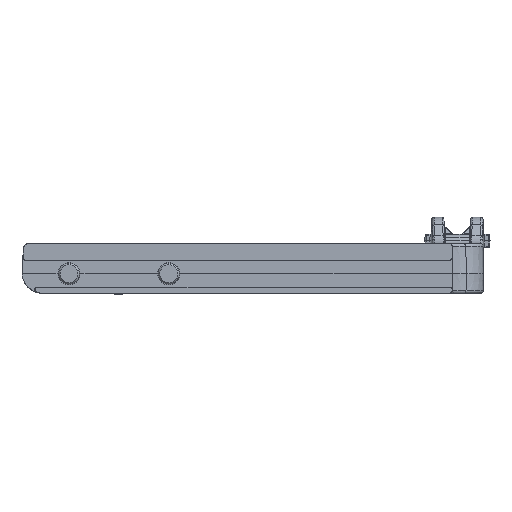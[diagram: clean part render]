
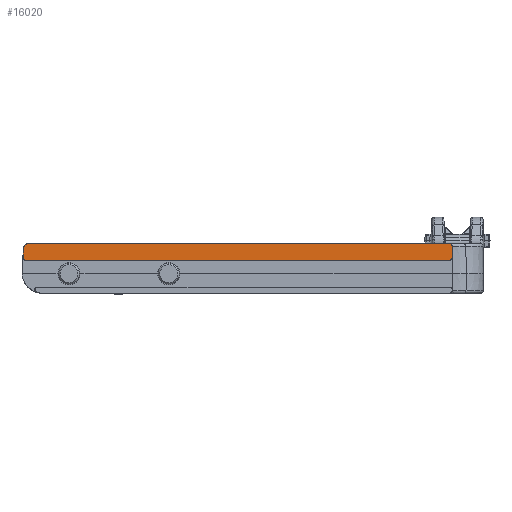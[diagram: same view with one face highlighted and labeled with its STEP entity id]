
A CAD part, front view. The second image highlights one B-rep face of the part: STEP entity #16020.
In plain terms, the highlighted planar face has unit normal (0, -1, 0).
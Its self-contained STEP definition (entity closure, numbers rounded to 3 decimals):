
#263 = VERTEX_POINT ( 'NONE', #16626 ) ;
#306 = VERTEX_POINT ( 'NONE', #16685 ) ;
#347 = VERTEX_POINT ( 'NONE', #16961 ) ;
#475 = VERTEX_POINT ( 'NONE', #17089 ) ;
#1666 = LINE ( 'NONE', #25374, #1674 ) ;
#1674 = VECTOR ( 'NONE', #5786, 1000. ) ;
#1681 = LINE ( 'NONE', #5804, #15753 ) ;
#4240 =( BOUNDED_CURVE ( )  B_SPLINE_CURVE ( 3, ( #25369, #25368, #5781, #5782 ),
 .UNSPECIFIED., .F., .F. ) 
 B_SPLINE_CURVE_WITH_KNOTS ( ( 4, 4 ),
 ( 5.498, 7.068 ),
 .UNSPECIFIED. ) 
 CURVE ( )  GEOMETRIC_REPRESENTATION_ITEM ( )  RATIONAL_B_SPLINE_CURVE ( ( 1., 0.805, 0.805, 1. ) ) 
 REPRESENTATION_ITEM ( '' )  );
#4241 =( BOUNDED_CURVE ( )  B_SPLINE_CURVE ( 3, ( #5784, #5793, #5794, #5795 ),
 .UNSPECIFIED., .F., .F. ) 
 B_SPLINE_CURVE_WITH_KNOTS ( ( 4, 4 ),
 ( 2.33, 3.953 ),
 .UNSPECIFIED. ) 
 CURVE ( )  GEOMETRIC_REPRESENTATION_ITEM ( )  RATIONAL_B_SPLINE_CURVE ( ( 1., 0.792, 0.792, 1. ) ) 
 REPRESENTATION_ITEM ( '' )  );
#5781 = CARTESIAN_POINT ( 'NONE',  ( 53.987, 0., -3.468 ) ) ;
#5782 = CARTESIAN_POINT ( 'NONE',  ( 53.987, 0., -3.175 ) ) ;
#5784 = CARTESIAN_POINT ( 'NONE',  ( -27.751, 0., -3.149 ) ) ;
#5786 = DIRECTION ( 'NONE',  ( 1., 0., 0. ) ) ;
#5793 = CARTESIAN_POINT ( 'NONE',  ( -27.767, 0., -3.454 ) ) ;
#5794 = CARTESIAN_POINT ( 'NONE',  ( -27.557, 0., -3.675 ) ) ;
#5795 = CARTESIAN_POINT ( 'NONE',  ( -27.252, 0., -3.675 ) ) ;
#5804 = CARTESIAN_POINT ( 'NONE',  ( -27.511, 0., 1.442 ) ) ;
#5805 = DIRECTION ( 'NONE',  ( 0.052, 0., 0.999 ) ) ;
#8977 = EDGE_CURVE ( 'NONE', #11378, #347, #11580, .T. ) ;
#8979 = EDGE_CURVE ( 'NONE', #306, #475, #26052, .T. ) ;
#8984 = EDGE_CURVE ( 'NONE', #11361, #306, #11583, .T. ) ;
#8985 = EDGE_CURVE ( 'NONE', #347, #475, #11588, .T. ) ;
#11360 = VERTEX_POINT ( 'NONE', #19576 ) ;
#11361 = VERTEX_POINT ( 'NONE', #19578 ) ;
#11366 = VERTEX_POINT ( 'NONE', #19587 ) ;
#11378 = VERTEX_POINT ( 'NONE', #19607 ) ;
#11580 = CIRCLE ( 'NONE', #16865, 0.962 ) ;
#11583 = LINE ( 'NONE', #12270, #11589 ) ;
#11588 = LINE ( 'NONE', #12272, #11591 ) ;
#11589 = VECTOR ( 'NONE', #12271, 1000. ) ;
#11591 = VECTOR ( 'NONE', #12273, 1000. ) ;
#12221 = CARTESIAN_POINT ( 'NONE',  ( 53.987, 0., -0.745 ) ) ;
#12241 = CARTESIAN_POINT ( 'NONE',  ( -26.701, 0., -1.5 ) ) ;
#12242 = DIRECTION ( 'NONE',  ( 0., 1., 0. ) ) ;
#12243 = DIRECTION ( 'NONE',  ( 0., 0., 1. ) ) ;
#12244 = CARTESIAN_POINT ( 'NONE',  ( 53.987, 0., -1.038 ) ) ;
#12247 = CARTESIAN_POINT ( 'NONE',  ( 53.78, 0., -0.538 ) ) ;
#12248 = CARTESIAN_POINT ( 'NONE',  ( 53.488, 0., -0.538 ) ) ;
#12270 = CARTESIAN_POINT ( 'NONE',  ( 53.987, 0., -1.5 ) ) ;
#12271 = DIRECTION ( 'NONE',  ( 0., 0., 1. ) ) ;
#12272 = CARTESIAN_POINT ( 'NONE',  ( 0., 0., -0.538 ) ) ;
#12273 = DIRECTION ( 'NONE',  ( 1., 0., 0. ) ) ;
#15483 = FACE_OUTER_BOUND ( 'NONE', #15762, .T. ) ;
#15753 = VECTOR ( 'NONE', #5805, 1000. ) ;
#15762 = EDGE_LOOP ( 'NONE', ( #23087, #23088, #23089, #23090, #23091, #23092, #23093, #23094 ) ) ;
#16020 = ADVANCED_FACE ( 'NONE', ( #15483 ), #18745, .F. ) ;
#16626 = CARTESIAN_POINT ( 'NONE',  ( -27.252, 0., -3.675 ) ) ;
#16685 = CARTESIAN_POINT ( 'NONE',  ( 53.987, 0., -1.038 ) ) ;
#16865 = AXIS2_PLACEMENT_3D ( 'NONE', #12241, #12242, #12243 ) ;
#16961 = CARTESIAN_POINT ( 'NONE',  ( -26.701, 0., -0.538 ) ) ;
#17089 = CARTESIAN_POINT ( 'NONE',  ( 53.488, 0., -0.538 ) ) ;
#18743 = CARTESIAN_POINT ( 'NONE',  ( -26.701, 0., -1.5 ) ) ;
#18745 = PLANE ( 'NONE',  #20590 ) ;
#18748 = DIRECTION ( 'NONE',  ( 0., 1., 0. ) ) ;
#18749 = DIRECTION ( 'NONE',  ( 0., 0., 1. ) ) ;
#19576 = CARTESIAN_POINT ( 'NONE',  ( 53.488, 0., -3.675 ) ) ;
#19578 = CARTESIAN_POINT ( 'NONE',  ( 53.987, 0., -3.175 ) ) ;
#19587 = CARTESIAN_POINT ( 'NONE',  ( -27.751, 0., -3.149 ) ) ;
#19607 = CARTESIAN_POINT ( 'NONE',  ( -27.662, 0., -1.45 ) ) ;
#20590 = AXIS2_PLACEMENT_3D ( 'NONE', #18743, #18748, #18749 ) ;
#23087 = ORIENTED_EDGE ( 'NONE', *, *, #8984, .T. ) ;
#23088 = ORIENTED_EDGE ( 'NONE', *, *, #8979, .T. ) ;
#23089 = ORIENTED_EDGE ( 'NONE', *, *, #8985, .F. ) ;
#23090 = ORIENTED_EDGE ( 'NONE', *, *, #8977, .F. ) ;
#23091 = ORIENTED_EDGE ( 'NONE', *, *, #25178, .F. ) ;
#23092 = ORIENTED_EDGE ( 'NONE', *, *, #25170, .T. ) ;
#23093 = ORIENTED_EDGE ( 'NONE', *, *, #25163, .T. ) ;
#23094 = ORIENTED_EDGE ( 'NONE', *, *, #25158, .T. ) ;
#25158 = EDGE_CURVE ( 'NONE', #11360, #11361, #4240, .T. ) ;
#25163 = EDGE_CURVE ( 'NONE', #263, #11360, #1666, .T. ) ;
#25170 = EDGE_CURVE ( 'NONE', #11366, #263, #4241, .T. ) ;
#25178 = EDGE_CURVE ( 'NONE', #11366, #11378, #1681, .T. ) ;
#25368 = CARTESIAN_POINT ( 'NONE',  ( 53.78, 0., -3.675 ) ) ;
#25369 = CARTESIAN_POINT ( 'NONE',  ( 53.488, 0., -3.675 ) ) ;
#25374 = CARTESIAN_POINT ( 'NONE',  ( -38.703, 0., -3.675 ) ) ;
#26052 =( BOUNDED_CURVE ( )  B_SPLINE_CURVE ( 3, ( #12244, #12221, #12247, #12248 ),
 .UNSPECIFIED., .F., .F. ) 
 B_SPLINE_CURVE_WITH_KNOTS ( ( 4, 4 ),
 ( 5.498, 7.068 ),
 .UNSPECIFIED. ) 
 CURVE ( )  GEOMETRIC_REPRESENTATION_ITEM ( )  RATIONAL_B_SPLINE_CURVE ( ( 1., 0.805, 0.805, 1. ) ) 
 REPRESENTATION_ITEM ( '' )  );
